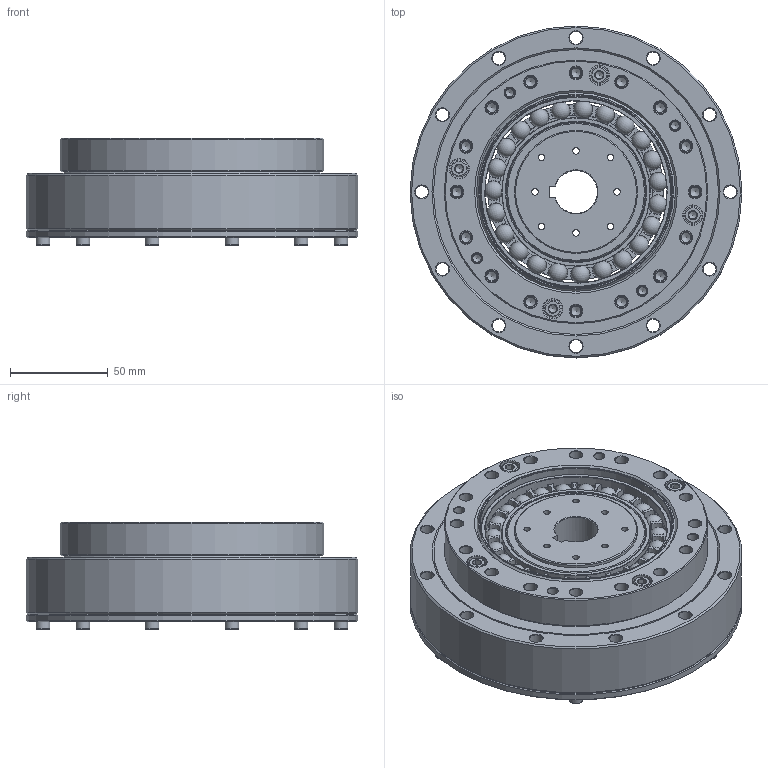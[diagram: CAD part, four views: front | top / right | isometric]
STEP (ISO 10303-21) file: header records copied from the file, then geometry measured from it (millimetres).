
FILE_DESCRIPTION(/* description */ (''),/* implementation_level */ '2;1');
FILE_NAME(/* name */ 'FHG-40-XX-U-I(孔径22W6).stp',/* time_stamp */ '2024-11-30T16:27:20+08:00',/* author */ (''),/* organization */ (''),/* preprocessor_version */ 'ST-DEVELOPER v16.7',/* originating_system */ 'SIEMENS PLM Software NX 12.0',/* authorisation */ '');
FILE_SCHEMA (('AUTOMOTIVE_DESIGN { 1 0 10303 214 3 1 1 1 }'));
Length unit declared in the file: millimetre
Products named in the file (15): EB719815-40KCH-46; EB719815-40KCH-04; EB719815-40KCH-02; EB719815-40KCH-01; TC-132x146x7; GB-T70.1-2000,M5x16; GB-T70.1-2000,M4x10; 发生器FSG-40-XXDL直径22w6_stp; O型密封圈113-108.25-1.5; O型密封圈148-142.6-1.5; 刚轮FHG-40; 柔轮FHG-40; EB719815-40KCH_stp; 交叉轴承LHT-40; FHG-40-XX-U-I(孔径22W6)
Assembly tree (22 placements, depth 3):
  FHG-40-XX-U-I(孔径22W6)
    柔轮FHG-40
    刚轮FHG-40
    交叉轴承LHT-40
      TC-132x146x7
    O型密封圈148-142.6-1.5
    O型密封圈113-108.25-1.5
    发生器FSG-40-XXDL直径22w6_stp
    EB719815-40KCH_stp
      EB719815-40KCH-01
      EB719815-40KCH-02
      EB719815-40KCH-04
      EB719815-40KCH-46
    GB-T70.1-2000,M4x10  x6
    GB-T70.1-2000,M5x16  x4
Bounding box: 170 x 170 x 55 mm (x, y, z)
Volume: 579682.7 mm3; surface area: 262231.3 mm2
Topology: 44 solids, 44 shells, 903 faces, 2093 edges, 1267 vertices
Faces by surface type: cone 310, plane 246, cylinder 233, torus 89, sphere 23, bspline 2
Full cylindrical faces by diameter (mm): 2.5 x4, 3.3 x28, 3.838 x6, 4.2 x8, 4.5 x12, 4.826 x4, 5 x16, 5.5 x8, 6.6 x40, 7 x6, 8.5 x4, 10 x4, 32 x1, 63 x1, 68.8 x1, 71.12 x2, 76.14 x2, 78.9 x1, 87 x1, 90.1 x1, 93.27 x2, 98.171 x2, 99.345 x1, 101.923 x1, 102.44 x1, 105 x1, 108 x2, 108.25 x2, 109 x1, 113 x2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
Entity records: 20436 total; most frequent: CARTESIAN_POINT 5329, DIRECTION 3186, ORIENTED_EDGE 2162, AXIS2_PLACEMENT_3D 1509, EDGE_LOOP 1251, FACE_BOUND 1099, EDGE_CURVE 1081, VERTEX_POINT 933
